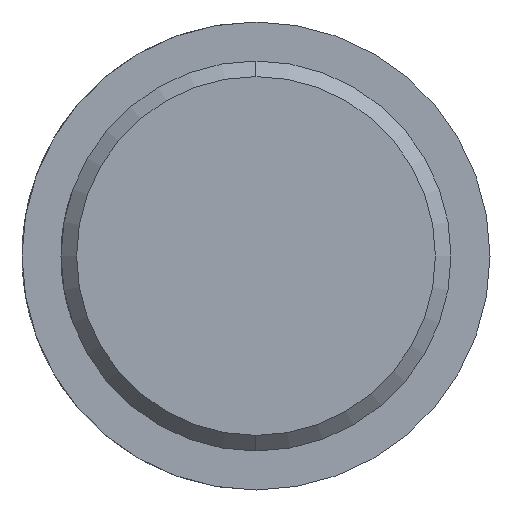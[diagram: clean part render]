
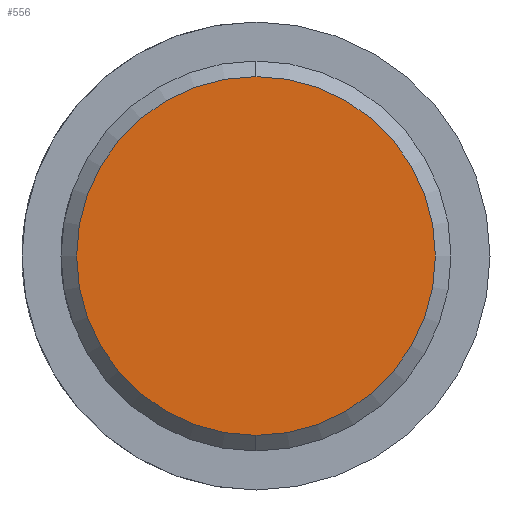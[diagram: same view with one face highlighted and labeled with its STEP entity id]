
A CAD part, left-side view. The second image highlights one B-rep face of the part: STEP entity #556.
In plain terms, the highlighted planar face has unit normal (-1, 0, 0).
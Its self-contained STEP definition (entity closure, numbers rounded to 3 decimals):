
#52 = DIRECTION ( 'NONE',  ( 0., 0., 1. ) ) ;
#101 = DIRECTION ( 'NONE',  ( 0., 0., 1. ) ) ;
#102 = CARTESIAN_POINT ( 'NONE',  ( 0., 0., 0. ) ) ;
#147 = DIRECTION ( 'NONE',  ( -1., 0., 0. ) ) ;
#177 = DIRECTION ( 'NONE',  ( -1., 0., 0. ) ) ;
#178 = CARTESIAN_POINT ( 'NONE',  ( 0., 0., 0. ) ) ;
#184 = CARTESIAN_POINT ( 'NONE',  ( 0., 0., -11.5 ) ) ;
#311 = CARTESIAN_POINT ( 'NONE',  ( 0., 0., 11.5 ) ) ;
#334 = DIRECTION ( 'NONE',  ( -1., 0., 0. ) ) ;
#344 = DIRECTION ( 'NONE',  ( 0., 0., 1. ) ) ;
#378 = PLANE ( 'NONE',  #521 ) ;
#379 = CARTESIAN_POINT ( 'NONE',  ( 0., 12.5, 0. ) ) ;
#405 = AXIS2_PLACEMENT_3D ( 'NONE', #178, #177, #52 ) ;
#441 = AXIS2_PLACEMENT_3D ( 'NONE', #102, #334, #344 ) ;
#458 = EDGE_CURVE ( 'NONE', #858, #581, #775, .T. ) ;
#481 = EDGE_CURVE ( 'NONE', #581, #858, #567, .T. ) ;
#521 = AXIS2_PLACEMENT_3D ( 'NONE', #379, #147, #101 ) ;
#556 = ADVANCED_FACE ( 'NONE', ( #809 ), #378, .T. ) ;
#567 = CIRCLE ( 'NONE', #441, 11.5 ) ;
#581 = VERTEX_POINT ( 'NONE', #311 ) ;
#669 = ORIENTED_EDGE ( 'NONE', *, *, #481, .T. ) ;
#735 = EDGE_LOOP ( 'NONE', ( #827, #669 ) ) ;
#775 = CIRCLE ( 'NONE', #405, 11.5 ) ;
#809 = FACE_OUTER_BOUND ( 'NONE', #735, .T. ) ;
#827 = ORIENTED_EDGE ( 'NONE', *, *, #458, .T. ) ;
#858 = VERTEX_POINT ( 'NONE', #184 ) ;
